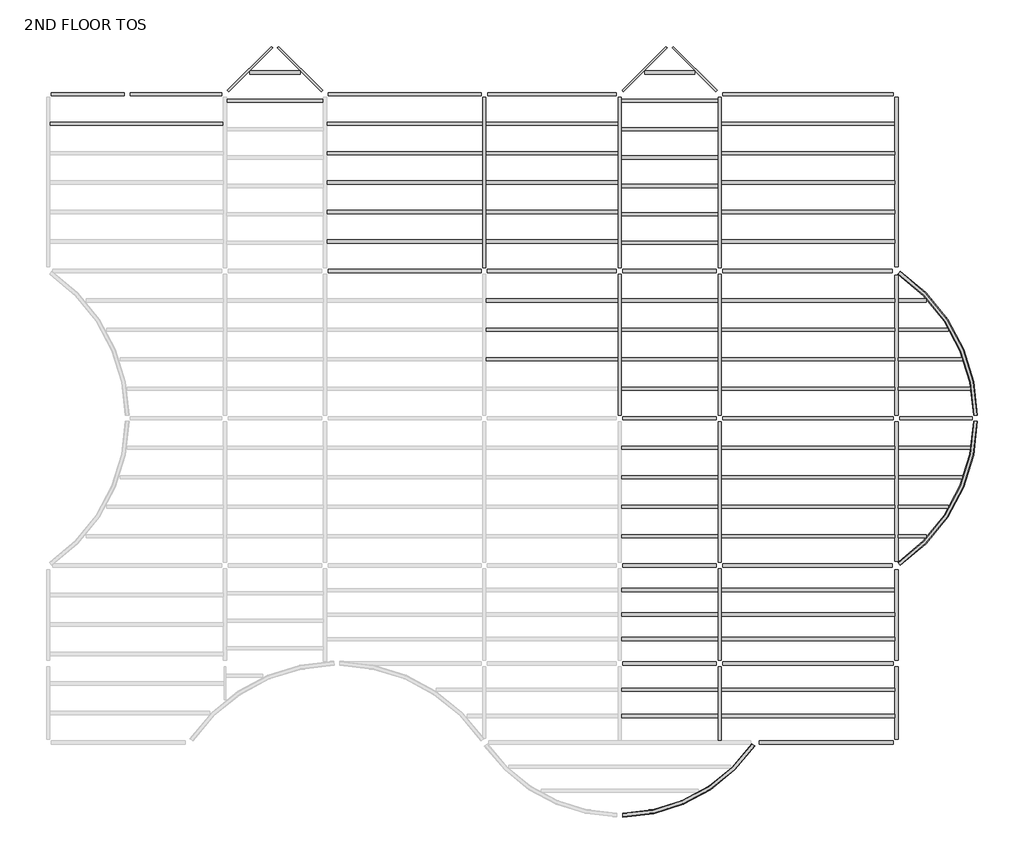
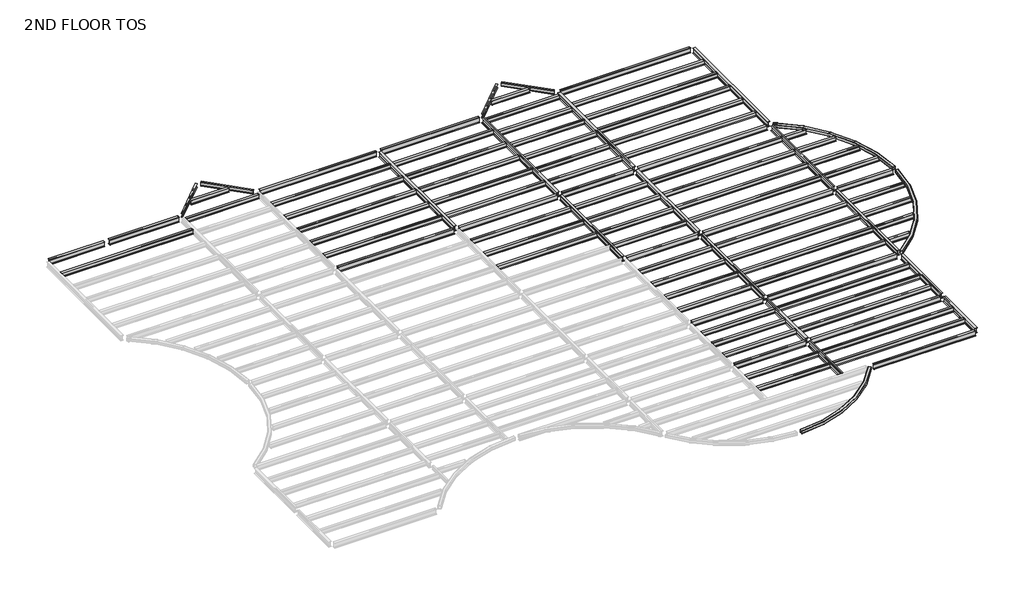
# One storey, part 2 of 2: 99 beams.
"""IFC4 building model written with IfcOpenShell, lengths in millimetres."""

from ifc_helpers import new_model, si_unit, origin, place, context, project, spatial, transform, mapped, element, save
from components import m_hss_square_hss203_2x203_2x9_5_28e91a4e, m_hss_square_hss203_2x203_2x9_5_f31329aa, m_hss_square_hss203_2x203_2x9_5_63507dff, ub_universal_beams_ub254x102x28_7812688d, ub_universal_beams_ub254x102x28_4a38c177, ub_universal_beams_ub305x165x40_c4d0385b, ub_universal_beams_ub305x165x40_19965e16, ub_universal_beams_ub305x165x40_d3abc31d, ub_universal_beams_ub305x165x40_0c73730f, ub_universal_beams_ub305x165x40_2a963f0c, ub_universal_beams_ub305x165x40_9ce7f2ee, ub_universal_beams_ub305x165x40_d184adfd, ub_universal_beams_ub305x165x40_bc7dc938, ub_universal_beams_ub305x165x40_b4233d25, ub_universal_beams_ub356x171x51_c708c058, ub_universal_beams_ub356x171x51_ef72dcdd, ub_universal_beams_ub356x171x51_10b3c54f, ub_universal_beams_ub356x171x51_4c9fd821, ub_universal_beams_ub356x171x51_d1a87c3c, ub_universal_beams_ub356x171x51_fa75724b, ub_universal_beams_ub356x171x51_68db896e, ub_universal_beams_ub356x171x51_c634c4a6, ub_universal_beams_ub356x171x51_995f1560, ub_universal_beams_ub356x171x51_dfc36663, ub_universal_beams_ub356x171x51_11d6b780, ub_universal_beams_ub356x171x51_76b2d20b, ub_universal_beams_ub356x171x51_145ecd4b, ub_universal_beams_ub356x171x51_c7dff8d2, ub_universal_beams_ub356x171x51_8a345439, ub_universal_beams_ub356x171x51_6da510e9, ub_universal_beams_ub356x171x51_e97f8d2e, ub_universal_beams_ub356x171x51_a38b99de, ub_universal_beams_ub356x171x51_d8f4cdde, ub_universal_beams_ub356x171x51_475301e6, ub_universal_beams_ub356x171x51_c03c70fb, ub_universal_beams_ub356x171x51_741bae58

model = new_model("IFC4")

# Units and contexts
model_context = context("Model", 3, world=origin())
ifc_project = project(units=[si_unit("LENGTHUNIT", "METRE", prefix="MILLI")], contexts=[model_context])

# Site, building, storey
site = spatial("IfcSite", under=ifc_project)
building = spatial("IfcBuilding", under=site)
storey = spatial("IfcBuildingStorey", under=building, Name="2ND FLOOR TOS", Elevation=8991.6)

# Beams
placement = place(None, origin())
m_hss_square_hss203_2x203_2x9_5_shape = m_hss_square_hss203_2x203_2x9_5_28e91a4e(model_context)
element("IfcBeam", 1, ObjectType="M_HSS Square : HSS203.2X203.2X9.5", at=placement, inside=storey, context=model_context, shape_type="MappedRepresentation", body=[
    mapped(m_hss_square_hss203_2x203_2x9_5_shape, transform((44027.575, 24539.575, 8890.1), x_axis=(0.8332810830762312, -0.5528495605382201, 0.0), y_axis=(0.5528495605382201, 0.8332810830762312, 0.0), z_axis=(0.0, 0.0, 1.0))),
])
m_hss_square_hss203_2x203_2x9_5_2_shape = m_hss_square_hss203_2x203_2x9_5_f31329aa(model_context)
element("IfcBeam", 2, ObjectType="M_HSS Square : HSS203.2X203.2X9.5", at=placement, inside=storey, context=model_context, shape_type="MappedRepresentation", body=[
    mapped(m_hss_square_hss203_2x203_2x9_5_2_shape, transform((44027.575, 9299.575, 8890.1), x_axis=(0.8332810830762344, 0.5528495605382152, 0.0), y_axis=(-0.5528495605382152, 0.8332810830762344, 0.0), z_axis=(0.0, 0.0, 1.0))),
])
m_hss_square_hss203_2x203_2x9_5_3_shape = m_hss_square_hss203_2x203_2x9_5_63507dff(model_context)
element("IfcBeam", 3, ObjectType="M_HSS Square : HSS203.2X203.2X9.5", at=placement, inside=storey, context=model_context, shape_type="MappedRepresentation", body=[
    mapped(m_hss_square_hss203_2x203_2x9_5_3_shape, transform((36716.575, 155.575, 8890.1), x_axis=(-0.5530174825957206, -0.8331696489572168, 0.0), y_axis=(0.8331696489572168, -0.5530174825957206, 0.0), z_axis=(0.0, 0.0, 1.0))),
])
ub_universal_beams_ub254x102x28_shape = ub_universal_beams_ub254x102x28_7812688d(model_context)
element("IfcBeam", 4, ObjectType="UB-Universal Beams : UB254x102x28", at=placement, inside=storey, context=model_context, shape_type="MappedRepresentation", body=[
    mapped(ub_universal_beams_ub254x102x28_shape, transform((10592.575, 34976.575, 8861.4), x_axis=(0.7071067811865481, 0.7071067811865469, 0.0), y_axis=(-0.7071067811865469, 0.7071067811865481, 0.0), z_axis=(0.0, 0.0, 1.0))),
])
element("IfcBeam", 5, ObjectType="UB-Universal Beams : UB254x102x28", at=placement, inside=storey, context=model_context, shape_type="MappedRepresentation", body=[
    mapped(ub_universal_beams_ub254x102x28_shape, transform((31004.575, 34976.575, 8861.4), x_axis=(0.7071067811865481, 0.7071067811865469, 0.0), y_axis=(-0.7071067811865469, 0.7071067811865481, 0.0), z_axis=(0.0, 0.0, 1.0))),
])
ub_universal_beams_ub254x102x28_2_shape = ub_universal_beams_ub254x102x28_4a38c177(model_context)
element("IfcBeam", 6, ObjectType="UB-Universal Beams : UB254x102x28", at=placement, inside=storey, context=model_context, shape_type="MappedRepresentation", body=[
    mapped(ub_universal_beams_ub254x102x28_2_shape, transform((13178.575, 34976.575, 8861.4), x_axis=(0.707106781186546, -0.707106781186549, 0.0), y_axis=(0.707106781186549, 0.707106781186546, 0.0), z_axis=(0.0, 0.0, 1.0))),
])
element("IfcBeam", 7, ObjectType="UB-Universal Beams : UB254x102x28", at=placement, inside=storey, context=model_context, shape_type="MappedRepresentation", body=[
    mapped(ub_universal_beams_ub254x102x28_2_shape, transform((33590.575, 34976.575, 8861.4), x_axis=(0.7071067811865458, -0.7071067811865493, 0.0), y_axis=(0.7071067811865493, 0.7071067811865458, 0.0), z_axis=(0.0, 0.0, 1.0))),
])
ub_universal_beams_ub305x165x40_shape = ub_universal_beams_ub305x165x40_c4d0385b(model_context)
element("IfcBeam", 8, ObjectType="UB-Universal Beams : UB305x165x40", at=placement, inside=storey, context=model_context, shape_type="MappedRepresentation", body=[
    mapped(ub_universal_beams_ub305x165x40_shape, transform((4727.575, 32159.575, 8839.9), x_axis=(1.0, 0.0, 0.0), y_axis=(0.0, 1.0, 0.0), z_axis=(0.0, 0.0, 1.0))),
])
element("IfcBeam", 9, ObjectType="UB-Universal Beams : UB305x165x40", at=placement, inside=storey, context=model_context, shape_type="MappedRepresentation", body=[
    mapped(ub_universal_beams_ub305x165x40_shape, transform((39455.575, 32159.575, 8839.9), x_axis=(1.0, 0.0, 0.0), y_axis=(0.0, 1.0, 0.0), z_axis=(0.0, 0.0, 1.0))),
])
element("IfcBeam", 10, ObjectType="UB-Universal Beams : UB305x165x40", at=placement, inside=storey, context=model_context, shape_type="MappedRepresentation", body=[
    mapped(ub_universal_beams_ub305x165x40_shape, transform((39455.575, 30635.575, 8839.9), x_axis=(1.0, 0.0, 0.0), y_axis=(0.0, 1.0, 0.0), z_axis=(0.0, 0.0, 1.0))),
])
element("IfcBeam", 11, ObjectType="UB-Universal Beams : UB305x165x40", at=placement, inside=storey, context=model_context, shape_type="MappedRepresentation", body=[
    mapped(ub_universal_beams_ub305x165x40_shape, transform((39455.575, 29111.575, 8839.9), x_axis=(1.0, 0.0, 0.0), y_axis=(0.0, 1.0, 0.0), z_axis=(0.0, 0.0, 1.0))),
])
element("IfcBeam", 12, ObjectType="UB-Universal Beams : UB305x165x40", at=placement, inside=storey, context=model_context, shape_type="MappedRepresentation", body=[
    mapped(ub_universal_beams_ub305x165x40_shape, transform((39455.575, 27587.575, 8839.9), x_axis=(1.0, 0.0, 0.0), y_axis=(0.0, 1.0, 0.0), z_axis=(0.0, 0.0, 1.0))),
])
element("IfcBeam", 13, ObjectType="UB-Universal Beams : UB305x165x40", at=placement, inside=storey, context=model_context, shape_type="MappedRepresentation", body=[
    mapped(ub_universal_beams_ub305x165x40_shape, transform((39455.575, 26063.575, 8839.9), x_axis=(1.0, 0.0, 0.0), y_axis=(0.0, 1.0, 0.0), z_axis=(0.0, 0.0, 1.0))),
])
element("IfcBeam", 14, ObjectType="UB-Universal Beams : UB305x165x40", at=placement, inside=storey, context=model_context, shape_type="MappedRepresentation", body=[
    mapped(ub_universal_beams_ub305x165x40_shape, transform((39455.575, 23015.575, 8839.9), x_axis=(1.0, 0.0, 0.0), y_axis=(0.0, 1.0, 0.0), z_axis=(0.0, 0.0, 1.0))),
])
element("IfcBeam", 15, ObjectType="UB-Universal Beams : UB305x165x40", at=placement, inside=storey, context=model_context, shape_type="MappedRepresentation", body=[
    mapped(ub_universal_beams_ub305x165x40_shape, transform((39455.575, 21491.575, 8839.9), x_axis=(1.0, 0.0, 0.0), y_axis=(0.0, 1.0, 0.0), z_axis=(0.0, 0.0, 1.0))),
])
element("IfcBeam", 16, ObjectType="UB-Universal Beams : UB305x165x40", at=placement, inside=storey, context=model_context, shape_type="MappedRepresentation", body=[
    mapped(ub_universal_beams_ub305x165x40_shape, transform((39455.575, 19967.575, 8839.9), x_axis=(1.0, 0.0, 0.0), y_axis=(0.0, 1.0, 0.0), z_axis=(0.0, 0.0, 1.0))),
])
element("IfcBeam", 17, ObjectType="UB-Universal Beams : UB305x165x40", at=placement, inside=storey, context=model_context, shape_type="MappedRepresentation", body=[
    mapped(ub_universal_beams_ub305x165x40_shape, transform((39455.575, 18443.575, 8839.9), x_axis=(1.0, 0.0, 0.0), y_axis=(0.0, 1.0, 0.0), z_axis=(0.0, 0.0, 1.0))),
])
element("IfcBeam", 18, ObjectType="UB-Universal Beams : UB305x165x40", at=placement, inside=storey, context=model_context, shape_type="MappedRepresentation", body=[
    mapped(ub_universal_beams_ub305x165x40_shape, transform((39455.575, 15395.575, 8839.9), x_axis=(1.0, 0.0, 0.0), y_axis=(0.0, 1.0, 0.0), z_axis=(0.0, 0.0, 1.0))),
])
element("IfcBeam", 19, ObjectType="UB-Universal Beams : UB305x165x40", at=placement, inside=storey, context=model_context, shape_type="MappedRepresentation", body=[
    mapped(ub_universal_beams_ub305x165x40_shape, transform((39455.575, 13871.575, 8839.9), x_axis=(1.0, 0.0, 0.0), y_axis=(0.0, 1.0, 0.0), z_axis=(0.0, 0.0, 1.0))),
])
element("IfcBeam", 20, ObjectType="UB-Universal Beams : UB305x165x40", at=placement, inside=storey, context=model_context, shape_type="MappedRepresentation", body=[
    mapped(ub_universal_beams_ub305x165x40_shape, transform((39455.575, 12347.575, 8839.9), x_axis=(1.0, 0.0, 0.0), y_axis=(0.0, 1.0, 0.0), z_axis=(0.0, 0.0, 1.0))),
])
element("IfcBeam", 21, ObjectType="UB-Universal Beams : UB305x165x40", at=placement, inside=storey, context=model_context, shape_type="MappedRepresentation", body=[
    mapped(ub_universal_beams_ub305x165x40_shape, transform((39455.575, 10823.575, 8839.9), x_axis=(1.0, 0.0, 0.0), y_axis=(0.0, 1.0, 0.0), z_axis=(0.0, 0.0, 1.0))),
])
element("IfcBeam", 22, ObjectType="UB-Universal Beams : UB305x165x40", at=placement, inside=storey, context=model_context, shape_type="MappedRepresentation", body=[
    mapped(ub_universal_beams_ub305x165x40_shape, transform((39455.575, 5508.325, 8839.9), x_axis=(-1.0, 0.0, 0.0), y_axis=(0.0, -1.0, 0.0), z_axis=(0.0, 0.0, 1.0))),
])
element("IfcBeam", 23, ObjectType="UB-Universal Beams : UB305x165x40", at=placement, inside=storey, context=model_context, shape_type="MappedRepresentation", body=[
    mapped(ub_universal_beams_ub305x165x40_shape, transform((39455.575, 6772.075, 8839.9), x_axis=(-1.0, 0.0, 0.0), y_axis=(0.0, -1.0, 0.0), z_axis=(0.0, 0.0, 1.0))),
])
element("IfcBeam", 24, ObjectType="UB-Universal Beams : UB305x165x40", at=placement, inside=storey, context=model_context, shape_type="MappedRepresentation", body=[
    mapped(ub_universal_beams_ub305x165x40_shape, transform((39455.575, 8035.825, 8839.9), x_axis=(-1.0, 0.0, 0.0), y_axis=(0.0, -1.0, 0.0), z_axis=(0.0, 0.0, 1.0))),
])
element("IfcBeam", 25, ObjectType="UB-Universal Beams : UB305x165x40", at=placement, inside=storey, context=model_context, shape_type="MappedRepresentation", body=[
    mapped(ub_universal_beams_ub305x165x40_shape, transform((39455.575, 1518.575, 8839.9), x_axis=(-1.0, 0.0, 0.0), y_axis=(0.0, -1.0, 0.0), z_axis=(0.0, 0.0, 1.0))),
])
element("IfcBeam", 26, ObjectType="UB-Universal Beams : UB305x165x40", at=placement, inside=storey, context=model_context, shape_type="MappedRepresentation", body=[
    mapped(ub_universal_beams_ub305x165x40_shape, transform((39455.575, 2881.575, 8839.9), x_axis=(-1.0, 0.0, 0.0), y_axis=(0.0, -1.0, 0.0), z_axis=(0.0, 0.0, 1.0))),
])
ub_universal_beams_ub305x165x40_2_shape = ub_universal_beams_ub305x165x40_19965e16(model_context)
element("IfcBeam", 27, ObjectType="UB-Universal Beams : UB305x165x40", at=placement, inside=storey, context=model_context, shape_type="MappedRepresentation", body=[
    mapped(ub_universal_beams_ub305x165x40_2_shape, transform((11885.575, 34803.325, 8839.9), x_axis=(1.0, 0.0, 0.0), y_axis=(0.0, 1.0, 0.0), z_axis=(0.0, 0.0, 1.0))),
])
element("IfcBeam", 28, ObjectType="UB-Universal Beams : UB305x165x40", at=placement, inside=storey, context=model_context, shape_type="MappedRepresentation", body=[
    mapped(ub_universal_beams_ub305x165x40_2_shape, transform((32297.575, 34803.325, 8839.9), x_axis=(1.0, 0.0, 0.0), y_axis=(0.0, 1.0, 0.0), z_axis=(0.0, 0.0, 1.0))),
])
ub_universal_beams_ub305x165x40_3_shape = ub_universal_beams_ub305x165x40_d3abc31d(model_context)
element("IfcBeam", 29, ObjectType="UB-Universal Beams : UB305x165x40", at=placement, inside=storey, context=model_context, shape_type="MappedRepresentation", body=[
    mapped(ub_universal_beams_ub305x165x40_3_shape, transform((11885.575, 33337.075, 8839.9), x_axis=(1.0, 0.0, 0.0), y_axis=(0.0, 1.0, 0.0), z_axis=(0.0, 0.0, 1.0))),
])
element("IfcBeam", 30, ObjectType="UB-Universal Beams : UB305x165x40", at=placement, inside=storey, context=model_context, shape_type="MappedRepresentation", body=[
    mapped(ub_universal_beams_ub305x165x40_3_shape, transform((32297.575, 33337.075, 8839.9), x_axis=(1.0, 0.0, 0.0), y_axis=(0.0, 1.0, 0.0), z_axis=(0.0, 0.0, 1.0))),
])
element("IfcBeam", 31, ObjectType="UB-Universal Beams : UB305x165x40", at=placement, inside=storey, context=model_context, shape_type="MappedRepresentation", body=[
    mapped(ub_universal_beams_ub305x165x40_3_shape, transform((32297.575, 31870.825, 8839.9), x_axis=(1.0, 0.0, 0.0), y_axis=(0.0, 1.0, 0.0), z_axis=(0.0, 0.0, 1.0))),
])
element("IfcBeam", 32, ObjectType="UB-Universal Beams : UB305x165x40", at=placement, inside=storey, context=model_context, shape_type="MappedRepresentation", body=[
    mapped(ub_universal_beams_ub305x165x40_3_shape, transform((32297.575, 30404.575, 8839.9), x_axis=(1.0, 0.0, 0.0), y_axis=(0.0, 1.0, 0.0), z_axis=(0.0, 0.0, 1.0))),
])
element("IfcBeam", 33, ObjectType="UB-Universal Beams : UB305x165x40", at=placement, inside=storey, context=model_context, shape_type="MappedRepresentation", body=[
    mapped(ub_universal_beams_ub305x165x40_3_shape, transform((32297.575, 28938.325, 8839.9), x_axis=(1.0, 0.0, 0.0), y_axis=(0.0, 1.0, 0.0), z_axis=(0.0, 0.0, 1.0))),
])
element("IfcBeam", 34, ObjectType="UB-Universal Beams : UB305x165x40", at=placement, inside=storey, context=model_context, shape_type="MappedRepresentation", body=[
    mapped(ub_universal_beams_ub305x165x40_3_shape, transform((32297.575, 27472.075, 8839.9), x_axis=(1.0, 0.0, 0.0), y_axis=(0.0, 1.0, 0.0), z_axis=(0.0, 0.0, 1.0))),
])
element("IfcBeam", 35, ObjectType="UB-Universal Beams : UB305x165x40", at=placement, inside=storey, context=model_context, shape_type="MappedRepresentation", body=[
    mapped(ub_universal_beams_ub305x165x40_3_shape, transform((32297.575, 26005.825, 8839.9), x_axis=(1.0, 0.0, 0.0), y_axis=(0.0, 1.0, 0.0), z_axis=(0.0, 0.0, 1.0))),
])
element("IfcBeam", 36, ObjectType="UB-Universal Beams : UB305x165x40", at=placement, inside=storey, context=model_context, shape_type="MappedRepresentation", body=[
    mapped(ub_universal_beams_ub305x165x40_3_shape, transform((32297.575, 1518.575, 8839.9), x_axis=(-1.0, 0.0, 0.0), y_axis=(0.0, -1.0, 0.0), z_axis=(0.0, 0.0, 1.0))),
])
element("IfcBeam", 37, ObjectType="UB-Universal Beams : UB305x165x40", at=placement, inside=storey, context=model_context, shape_type="MappedRepresentation", body=[
    mapped(ub_universal_beams_ub305x165x40_3_shape, transform((32297.575, 2881.575, 8839.9), x_axis=(-1.0, 0.0, 0.0), y_axis=(0.0, -1.0, 0.0), z_axis=(0.0, 0.0, 1.0))),
])
element("IfcBeam", 38, ObjectType="UB-Universal Beams : UB305x165x40", at=placement, inside=storey, context=model_context, shape_type="MappedRepresentation", body=[
    mapped(ub_universal_beams_ub305x165x40_3_shape, transform((32297.575, 5508.325, 8839.9), x_axis=(-1.0, 0.0, 0.0), y_axis=(0.0, -1.0, 0.0), z_axis=(0.0, 0.0, 1.0))),
])
element("IfcBeam", 39, ObjectType="UB-Universal Beams : UB305x165x40", at=placement, inside=storey, context=model_context, shape_type="MappedRepresentation", body=[
    mapped(ub_universal_beams_ub305x165x40_3_shape, transform((32297.575, 6772.075, 8839.9), x_axis=(-1.0, 0.0, 0.0), y_axis=(0.0, -1.0, 0.0), z_axis=(0.0, 0.0, 1.0))),
])
element("IfcBeam", 40, ObjectType="UB-Universal Beams : UB305x165x40", at=placement, inside=storey, context=model_context, shape_type="MappedRepresentation", body=[
    mapped(ub_universal_beams_ub305x165x40_3_shape, transform((32297.575, 8035.825, 8839.9), x_axis=(-1.0, 0.0, 0.0), y_axis=(0.0, -1.0, 0.0), z_axis=(0.0, 0.0, 1.0))),
])
element("IfcBeam", 41, ObjectType="UB-Universal Beams : UB305x165x40", at=placement, inside=storey, context=model_context, shape_type="MappedRepresentation", body=[
    mapped(ub_universal_beams_ub305x165x40_3_shape, transform((32297.575, 15395.575, 8839.9), x_axis=(1.0, 0.0, 0.0), y_axis=(0.0, 1.0, 0.0), z_axis=(0.0, 0.0, 1.0))),
])
element("IfcBeam", 42, ObjectType="UB-Universal Beams : UB305x165x40", at=placement, inside=storey, context=model_context, shape_type="MappedRepresentation", body=[
    mapped(ub_universal_beams_ub305x165x40_3_shape, transform((32297.575, 13871.575, 8839.9), x_axis=(1.0, 0.0, 0.0), y_axis=(0.0, 1.0, 0.0), z_axis=(0.0, 0.0, 1.0))),
])
element("IfcBeam", 43, ObjectType="UB-Universal Beams : UB305x165x40", at=placement, inside=storey, context=model_context, shape_type="MappedRepresentation", body=[
    mapped(ub_universal_beams_ub305x165x40_3_shape, transform((32297.575, 12347.575, 8839.9), x_axis=(1.0, 0.0, 0.0), y_axis=(0.0, 1.0, 0.0), z_axis=(0.0, 0.0, 1.0))),
])
element("IfcBeam", 44, ObjectType="UB-Universal Beams : UB305x165x40", at=placement, inside=storey, context=model_context, shape_type="MappedRepresentation", body=[
    mapped(ub_universal_beams_ub305x165x40_3_shape, transform((32297.575, 10823.575, 8839.9), x_axis=(1.0, 0.0, 0.0), y_axis=(0.0, 1.0, 0.0), z_axis=(0.0, 0.0, 1.0))),
])
element("IfcBeam", 45, ObjectType="UB-Universal Beams : UB305x165x40", at=placement, inside=storey, context=model_context, shape_type="MappedRepresentation", body=[
    mapped(ub_universal_beams_ub305x165x40_3_shape, transform((32297.575, 23015.575, 8839.9), x_axis=(1.0, 0.0, 0.0), y_axis=(0.0, 1.0, 0.0), z_axis=(0.0, 0.0, 1.0))),
])
element("IfcBeam", 46, ObjectType="UB-Universal Beams : UB305x165x40", at=placement, inside=storey, context=model_context, shape_type="MappedRepresentation", body=[
    mapped(ub_universal_beams_ub305x165x40_3_shape, transform((32297.575, 21491.575, 8839.9), x_axis=(1.0, 0.0, 0.0), y_axis=(0.0, 1.0, 0.0), z_axis=(0.0, 0.0, 1.0))),
])
element("IfcBeam", 47, ObjectType="UB-Universal Beams : UB305x165x40", at=placement, inside=storey, context=model_context, shape_type="MappedRepresentation", body=[
    mapped(ub_universal_beams_ub305x165x40_3_shape, transform((32297.575, 19967.575, 8839.9), x_axis=(1.0, 0.0, 0.0), y_axis=(0.0, 1.0, 0.0), z_axis=(0.0, 0.0, 1.0))),
])
element("IfcBeam", 48, ObjectType="UB-Universal Beams : UB305x165x40", at=placement, inside=storey, context=model_context, shape_type="MappedRepresentation", body=[
    mapped(ub_universal_beams_ub305x165x40_3_shape, transform((32297.575, 18443.575, 8839.9), x_axis=(1.0, 0.0, 0.0), y_axis=(0.0, 1.0, 0.0), z_axis=(0.0, 0.0, 1.0))),
])
ub_universal_beams_ub305x165x40_4_shape = ub_universal_beams_ub305x165x40_0c73730f(model_context)
element("IfcBeam", 49, ObjectType="UB-Universal Beams : UB305x165x40", at=placement, inside=storey, context=model_context, shape_type="MappedRepresentation", body=[
    mapped(ub_universal_beams_ub305x165x40_4_shape, transform((18591.075, 32159.575, 8839.9), x_axis=(1.0, 0.0, 0.0), y_axis=(0.0, 1.0, 0.0), z_axis=(0.0, 0.0, 1.0))),
])
element("IfcBeam", 50, ObjectType="UB-Universal Beams : UB305x165x40", at=placement, inside=storey, context=model_context, shape_type="MappedRepresentation", body=[
    mapped(ub_universal_beams_ub305x165x40_4_shape, transform((18591.075, 30635.575, 8839.9), x_axis=(1.0, 0.0, 0.0), y_axis=(0.0, 1.0, 0.0), z_axis=(0.0, 0.0, 1.0))),
])
element("IfcBeam", 51, ObjectType="UB-Universal Beams : UB305x165x40", at=placement, inside=storey, context=model_context, shape_type="MappedRepresentation", body=[
    mapped(ub_universal_beams_ub305x165x40_4_shape, transform((18591.075, 29111.575, 8839.9), x_axis=(1.0, 0.0, 0.0), y_axis=(0.0, 1.0, 0.0), z_axis=(0.0, 0.0, 1.0))),
])
element("IfcBeam", 52, ObjectType="UB-Universal Beams : UB305x165x40", at=placement, inside=storey, context=model_context, shape_type="MappedRepresentation", body=[
    mapped(ub_universal_beams_ub305x165x40_4_shape, transform((18591.075, 27587.575, 8839.9), x_axis=(1.0, 0.0, 0.0), y_axis=(0.0, 1.0, 0.0), z_axis=(0.0, 0.0, 1.0))),
])
element("IfcBeam", 53, ObjectType="UB-Universal Beams : UB305x165x40", at=placement, inside=storey, context=model_context, shape_type="MappedRepresentation", body=[
    mapped(ub_universal_beams_ub305x165x40_4_shape, transform((18591.075, 26063.575, 8839.9), x_axis=(1.0, 0.0, 0.0), y_axis=(0.0, 1.0, 0.0), z_axis=(0.0, 0.0, 1.0))),
])
ub_universal_beams_ub305x165x40_5_shape = ub_universal_beams_ub305x165x40_2a963f0c(model_context)
element("IfcBeam", 54, ObjectType="UB-Universal Beams : UB305x165x40", at=placement, inside=storey, context=model_context, shape_type="MappedRepresentation", body=[
    mapped(ub_universal_beams_ub305x165x40_5_shape, transform((26211.075, 32159.575, 8839.9), x_axis=(1.0, 0.0, 0.0), y_axis=(0.0, 1.0, 0.0), z_axis=(0.0, 0.0, 1.0))),
])
element("IfcBeam", 55, ObjectType="UB-Universal Beams : UB305x165x40", at=placement, inside=storey, context=model_context, shape_type="MappedRepresentation", body=[
    mapped(ub_universal_beams_ub305x165x40_5_shape, transform((26211.075, 30635.575, 8839.9), x_axis=(1.0, 0.0, 0.0), y_axis=(0.0, 1.0, 0.0), z_axis=(0.0, 0.0, 1.0))),
])
element("IfcBeam", 56, ObjectType="UB-Universal Beams : UB305x165x40", at=placement, inside=storey, context=model_context, shape_type="MappedRepresentation", body=[
    mapped(ub_universal_beams_ub305x165x40_5_shape, transform((26211.075, 29111.575, 8839.9), x_axis=(1.0, 0.0, 0.0), y_axis=(0.0, 1.0, 0.0), z_axis=(0.0, 0.0, 1.0))),
])
element("IfcBeam", 57, ObjectType="UB-Universal Beams : UB305x165x40", at=placement, inside=storey, context=model_context, shape_type="MappedRepresentation", body=[
    mapped(ub_universal_beams_ub305x165x40_5_shape, transform((26211.075, 27587.575, 8839.9), x_axis=(1.0, 0.0, 0.0), y_axis=(0.0, 1.0, 0.0), z_axis=(0.0, 0.0, 1.0))),
])
element("IfcBeam", 58, ObjectType="UB-Universal Beams : UB305x165x40", at=placement, inside=storey, context=model_context, shape_type="MappedRepresentation", body=[
    mapped(ub_universal_beams_ub305x165x40_5_shape, transform((26211.075, 26063.575, 8839.9), x_axis=(1.0, 0.0, 0.0), y_axis=(0.0, 1.0, 0.0), z_axis=(0.0, 0.0, 1.0))),
])
element("IfcBeam", 59, ObjectType="UB-Universal Beams : UB305x165x40", at=placement, inside=storey, context=model_context, shape_type="MappedRepresentation", body=[
    mapped(ub_universal_beams_ub305x165x40_5_shape, transform((26211.075, 23015.575, 8839.9), x_axis=(1.0, 0.0, 0.0), y_axis=(0.0, 1.0, 0.0), z_axis=(0.0, 0.0, 1.0))),
])
element("IfcBeam", 60, ObjectType="UB-Universal Beams : UB305x165x40", at=placement, inside=storey, context=model_context, shape_type="MappedRepresentation", body=[
    mapped(ub_universal_beams_ub305x165x40_5_shape, transform((26211.075, 21491.575, 8839.9), x_axis=(1.0, 0.0, 0.0), y_axis=(0.0, 1.0, 0.0), z_axis=(0.0, 0.0, 1.0))),
])
element("IfcBeam", 61, ObjectType="UB-Universal Beams : UB305x165x40", at=placement, inside=storey, context=model_context, shape_type="MappedRepresentation", body=[
    mapped(ub_universal_beams_ub305x165x40_5_shape, transform((26211.075, 19967.575, 8839.9), x_axis=(1.0, 0.0, 0.0), y_axis=(0.0, 1.0, 0.0), z_axis=(0.0, 0.0, 1.0))),
])
ub_universal_beams_ub305x165x40_6_shape = ub_universal_beams_ub305x165x40_9ce7f2ee(model_context)
element("IfcBeam", 62, ObjectType="UB-Universal Beams : UB305x165x40", at=placement, inside=storey, context=model_context, shape_type="MappedRepresentation", body=[
    mapped(ub_universal_beams_ub305x165x40_6_shape, transform((44907.9405309, 23015.575, 8839.9), x_axis=(1.0, 0.0, 0.0), y_axis=(0.0, 1.0, 0.0), z_axis=(0.0, 0.0, 1.0))),
])
element("IfcBeam", 63, ObjectType="UB-Universal Beams : UB305x165x40", at=placement, inside=storey, context=model_context, shape_type="MappedRepresentation", body=[
    mapped(ub_universal_beams_ub305x165x40_6_shape, transform((44907.9405309, 10823.575, 8839.9), x_axis=(1.0, 0.0, 0.0), y_axis=(0.0, 1.0, 0.0), z_axis=(0.0, 0.0, 1.0))),
])
ub_universal_beams_ub305x165x40_7_shape = ub_universal_beams_ub305x165x40_d184adfd(model_context)
element("IfcBeam", 64, ObjectType="UB-Universal Beams : UB305x165x40", at=placement, inside=storey, context=model_context, shape_type="MappedRepresentation", body=[
    mapped(ub_universal_beams_ub305x165x40_7_shape, transform((45459.5874928, 21491.575, 8839.9), x_axis=(1.0, 0.0, 0.0), y_axis=(0.0, 1.0, 0.0), z_axis=(0.0, 0.0, 1.0))),
])
element("IfcBeam", 65, ObjectType="UB-Universal Beams : UB305x165x40", at=placement, inside=storey, context=model_context, shape_type="MappedRepresentation", body=[
    mapped(ub_universal_beams_ub305x165x40_7_shape, transform((45459.5874928, 12347.575, 8839.9), x_axis=(1.0, 0.0, 0.0), y_axis=(0.0, 1.0, 0.0), z_axis=(0.0, 0.0, 1.0))),
])
ub_universal_beams_ub305x165x40_8_shape = ub_universal_beams_ub305x165x40_bc7dc938(model_context)
element("IfcBeam", 66, ObjectType="UB-Universal Beams : UB305x165x40", at=placement, inside=storey, context=model_context, shape_type="MappedRepresentation", body=[
    mapped(ub_universal_beams_ub305x165x40_8_shape, transform((45810.6153272, 19967.575, 8839.9), x_axis=(1.0, 0.0, 0.0), y_axis=(0.0, 1.0, 0.0), z_axis=(0.0, 0.0, 1.0))),
])
element("IfcBeam", 67, ObjectType="UB-Universal Beams : UB305x165x40", at=placement, inside=storey, context=model_context, shape_type="MappedRepresentation", body=[
    mapped(ub_universal_beams_ub305x165x40_8_shape, transform((45810.6153272, 13871.575, 8839.9), x_axis=(1.0, 0.0, 0.0), y_axis=(0.0, 1.0, 0.0), z_axis=(0.0, 0.0, 1.0))),
])
ub_universal_beams_ub305x165x40_9_shape = ub_universal_beams_ub305x165x40_b4233d25(model_context)
element("IfcBeam", 68, ObjectType="UB-Universal Beams : UB305x165x40", at=placement, inside=storey, context=model_context, shape_type="MappedRepresentation", body=[
    mapped(ub_universal_beams_ub305x165x40_9_shape, transform((46008.1318611, 18443.575, 8839.9), x_axis=(1.0, 0.0, 0.0), y_axis=(0.0, 1.0, 0.0), z_axis=(0.0, 0.0, 1.0))),
])
element("IfcBeam", 69, ObjectType="UB-Universal Beams : UB305x165x40", at=placement, inside=storey, context=model_context, shape_type="MappedRepresentation", body=[
    mapped(ub_universal_beams_ub305x165x40_9_shape, transform((46008.1318611, 15395.575, 8839.9), x_axis=(1.0, 0.0, 0.0), y_axis=(0.0, 1.0, 0.0), z_axis=(0.0, 0.0, 1.0))),
])
ub_universal_beams_ub356x171x51_shape = ub_universal_beams_ub356x171x51_c708c058(model_context)
element("IfcBeam", 70, ObjectType="UB-Universal Beams : UB356x171x51", at=placement, inside=storey, context=model_context, shape_type="MappedRepresentation", body=[
    mapped(ub_universal_beams_ub356x171x51_shape, transform((2200.075, 33683.575, 8814.1), x_axis=(1.0, 0.0, 0.0), y_axis=(0.0, 1.0, 0.0), z_axis=(0.0, 0.0, 1.0))),
])
ub_universal_beams_ub356x171x51_2_shape = ub_universal_beams_ub356x171x51_ef72dcdd(model_context)
element("IfcBeam", 71, ObjectType="UB-Universal Beams : UB356x171x51", at=placement, inside=storey, context=model_context, shape_type="MappedRepresentation", body=[
    mapped(ub_universal_beams_ub356x171x51_2_shape, transform((6772.075, 33683.575, 8814.1), x_axis=(1.0, 0.0, 0.0), y_axis=(0.0, 1.0, 0.0), z_axis=(0.0, 0.0, 1.0))),
])
element("IfcBeam", 72, ObjectType="UB-Universal Beams : UB356x171x51", at=placement, inside=storey, context=model_context, shape_type="MappedRepresentation", body=[
    mapped(ub_universal_beams_ub356x171x51_2_shape, transform((34883.575, 6772.075, 8814.1), x_axis=(0.0, -1.0, 0.0), y_axis=(1.0, 0.0, 0.0), z_axis=(0.0, 0.0, 1.0))),
])
ub_universal_beams_ub356x171x51_3_shape = ub_universal_beams_ub356x171x51_10b3c54f(model_context)
element("IfcBeam", 73, ObjectType="UB-Universal Beams : UB356x171x51", at=placement, inside=storey, context=model_context, shape_type="MappedRepresentation", body=[
    mapped(ub_universal_beams_ub356x171x51_3_shape, transform((18591.075, 33683.575, 8814.1), x_axis=(1.0, 0.0, 0.0), y_axis=(0.0, 1.0, 0.0), z_axis=(0.0, 0.0, 1.0))),
])
ub_universal_beams_ub356x171x51_4_shape = ub_universal_beams_ub356x171x51_4c9fd821(model_context)
element("IfcBeam", 74, ObjectType="UB-Universal Beams : UB356x171x51", at=placement, inside=storey, context=model_context, shape_type="MappedRepresentation", body=[
    mapped(ub_universal_beams_ub356x171x51_4_shape, transform((26211.075, 33683.575, 8814.1), x_axis=(1.0, 0.0, 0.0), y_axis=(0.0, 1.0, 0.0), z_axis=(0.0, 0.0, 1.0))),
])
ub_universal_beams_ub356x171x51_5_shape = ub_universal_beams_ub356x171x51_d1a87c3c(model_context)
element("IfcBeam", 75, ObjectType="UB-Universal Beams : UB356x171x51", at=placement, inside=storey, context=model_context, shape_type="MappedRepresentation", body=[
    mapped(ub_universal_beams_ub356x171x51_5_shape, transform((39455.575, 33683.575, 8814.1), x_axis=(1.0, 0.0, 0.0), y_axis=(0.0, 1.0, 0.0), z_axis=(0.0, 0.0, 1.0))),
])
ub_universal_beams_ub356x171x51_6_shape = ub_universal_beams_ub356x171x51_fa75724b(model_context)
element("IfcBeam", 76, ObjectType="UB-Universal Beams : UB356x171x51", at=placement, inside=storey, context=model_context, shape_type="MappedRepresentation", body=[
    mapped(ub_universal_beams_ub356x171x51_6_shape, transform((44027.575, 29111.575, 8814.1), x_axis=(0.0, -1.0, 0.0), y_axis=(1.0, 0.0, 0.0), z_axis=(0.0, 0.0, 1.0))),
])
ub_universal_beams_ub356x171x51_7_shape = ub_universal_beams_ub356x171x51_68db896e(model_context)
element("IfcBeam", 77, ObjectType="UB-Universal Beams : UB356x171x51", at=placement, inside=storey, context=model_context, shape_type="MappedRepresentation", body=[
    mapped(ub_universal_beams_ub356x171x51_7_shape, transform((44027.575, 6772.075, 8814.1), x_axis=(0.0, -1.0, 0.0), y_axis=(1.0, 0.0, 0.0), z_axis=(0.0, 0.0, 1.0))),
])
ub_universal_beams_ub356x171x51_8_shape = ub_universal_beams_ub356x171x51_c634c4a6(model_context)
element("IfcBeam", 78, ObjectType="UB-Universal Beams : UB356x171x51", at=placement, inside=storey, context=model_context, shape_type="MappedRepresentation", body=[
    mapped(ub_universal_beams_ub356x171x51_8_shape, transform((44027.575, 2200.075, 8814.1), x_axis=(0.0, -1.0, 0.0), y_axis=(1.0, 0.0, 0.0), z_axis=(0.0, 0.0, 1.0))),
])
ub_universal_beams_ub356x171x51_9_shape = ub_universal_beams_ub356x171x51_995f1560(model_context)
element("IfcBeam", 79, ObjectType="UB-Universal Beams : UB356x171x51", at=placement, inside=storey, context=model_context, shape_type="MappedRepresentation", body=[
    mapped(ub_universal_beams_ub356x171x51_9_shape, transform((40372.075, 155.575, 8814.1), x_axis=(-1.0, 0.0, 0.0), y_axis=(0.0, -1.0, 0.0), z_axis=(0.0, 0.0, 1.0))),
])
ub_universal_beams_ub356x171x51_10_shape = ub_universal_beams_ub356x171x51_dfc36663(model_context)
element("IfcBeam", 80, ObjectType="UB-Universal Beams : UB356x171x51", at=placement, inside=storey, context=model_context, shape_type="MappedRepresentation", body=[
    mapped(ub_universal_beams_ub356x171x51_10_shape, transform((46072.075, 16919.575, 8814.1), x_axis=(1.0, 0.0, 0.0), y_axis=(0.0, 1.0, 0.0), z_axis=(0.0, 0.0, 1.0))),
])
ub_universal_beams_ub356x171x51_11_shape = ub_universal_beams_ub356x171x51_11d6b780(model_context)
element("IfcBeam", 81, ObjectType="UB-Universal Beams : UB356x171x51", at=placement, inside=storey, context=model_context, shape_type="MappedRepresentation", body=[
    mapped(ub_universal_beams_ub356x171x51_11_shape, transform((32297.575, 24539.575, 8814.1), x_axis=(1.0, 0.0, 0.0), y_axis=(0.0, 1.0, 0.0), z_axis=(0.0, 0.0, 1.0))),
])
element("IfcBeam", 82, ObjectType="UB-Universal Beams : UB356x171x51", at=placement, inside=storey, context=model_context, shape_type="MappedRepresentation", body=[
    mapped(ub_universal_beams_ub356x171x51_11_shape, transform((32297.575, 9299.575, 8814.1), x_axis=(-1.0, 0.0, 0.0), y_axis=(0.0, -1.0, 0.0), z_axis=(0.0, 0.0, 1.0))),
])
element("IfcBeam", 83, ObjectType="UB-Universal Beams : UB356x171x51", at=placement, inside=storey, context=model_context, shape_type="MappedRepresentation", body=[
    mapped(ub_universal_beams_ub356x171x51_11_shape, transform((32297.575, 16919.575, 8814.1), x_axis=(1.0, 0.0, 0.0), y_axis=(0.0, 1.0, 0.0), z_axis=(0.0, 0.0, 1.0))),
])
element("IfcBeam", 84, ObjectType="UB-Universal Beams : UB356x171x51", at=placement, inside=storey, context=model_context, shape_type="MappedRepresentation", body=[
    mapped(ub_universal_beams_ub356x171x51_11_shape, transform((32297.575, 4244.575, 8814.1), x_axis=(-1.0, 0.0, 0.0), y_axis=(0.0, -1.0, 0.0), z_axis=(0.0, 0.0, 1.0))),
])
ub_universal_beams_ub356x171x51_12_shape = ub_universal_beams_ub356x171x51_76b2d20b(model_context)
element("IfcBeam", 85, ObjectType="UB-Universal Beams : UB356x171x51", at=placement, inside=storey, context=model_context, shape_type="MappedRepresentation", body=[
    mapped(ub_universal_beams_ub356x171x51_12_shape, transform((18591.075, 24539.575, 8814.1), x_axis=(1.0, 0.0, 0.0), y_axis=(0.0, 1.0, 0.0), z_axis=(0.0, 0.0, 1.0))),
])
ub_universal_beams_ub356x171x51_13_shape = ub_universal_beams_ub356x171x51_145ecd4b(model_context)
element("IfcBeam", 86, ObjectType="UB-Universal Beams : UB356x171x51", at=placement, inside=storey, context=model_context, shape_type="MappedRepresentation", body=[
    mapped(ub_universal_beams_ub356x171x51_13_shape, transform((26211.075, 24539.575, 8814.1), x_axis=(1.0, 0.0, 0.0), y_axis=(0.0, 1.0, 0.0), z_axis=(0.0, 0.0, 1.0))),
])
ub_universal_beams_ub356x171x51_14_shape = ub_universal_beams_ub356x171x51_c7dff8d2(model_context)
element("IfcBeam", 87, ObjectType="UB-Universal Beams : UB356x171x51", at=placement, inside=storey, context=model_context, shape_type="MappedRepresentation", body=[
    mapped(ub_universal_beams_ub356x171x51_14_shape, transform((39455.575, 24539.575, 8814.1), x_axis=(1.0, 0.0, 0.0), y_axis=(0.0, 1.0, 0.0), z_axis=(0.0, 0.0, 1.0))),
])
ub_universal_beams_ub356x171x51_15_shape = ub_universal_beams_ub356x171x51_8a345439(model_context)
element("IfcBeam", 88, ObjectType="UB-Universal Beams : UB356x171x51", at=placement, inside=storey, context=model_context, shape_type="MappedRepresentation", body=[
    mapped(ub_universal_beams_ub356x171x51_15_shape, transform((44027.575, 20729.575, 8814.1), x_axis=(0.0, -1.0, 0.0), y_axis=(1.0, 0.0, 0.0), z_axis=(0.0, 0.0, 1.0))),
])
ub_universal_beams_ub356x171x51_16_shape = ub_universal_beams_ub356x171x51_6da510e9(model_context)
element("IfcBeam", 89, ObjectType="UB-Universal Beams : UB356x171x51", at=placement, inside=storey, context=model_context, shape_type="MappedRepresentation", body=[
    mapped(ub_universal_beams_ub356x171x51_16_shape, transform((44027.575, 13109.575, 8814.1), x_axis=(0.0, -1.0, 0.0), y_axis=(1.0, 0.0, 0.0), z_axis=(0.0, 0.0, 1.0))),
])
ub_universal_beams_ub356x171x51_17_shape = ub_universal_beams_ub356x171x51_e97f8d2e(model_context)
element("IfcBeam", 90, ObjectType="UB-Universal Beams : UB356x171x51", at=placement, inside=storey, context=model_context, shape_type="MappedRepresentation", body=[
    mapped(ub_universal_beams_ub356x171x51_17_shape, transform((39455.575, 9299.575, 8814.1), x_axis=(-1.0, 0.0, 0.0), y_axis=(0.0, -1.0, 0.0), z_axis=(0.0, 0.0, 1.0))),
])
ub_universal_beams_ub356x171x51_18_shape = ub_universal_beams_ub356x171x51_a38b99de(model_context)
element("IfcBeam", 91, ObjectType="UB-Universal Beams : UB356x171x51", at=placement, inside=storey, context=model_context, shape_type="MappedRepresentation", body=[
    mapped(ub_universal_beams_ub356x171x51_18_shape, transform((34883.575, 20729.575, 8814.1), x_axis=(0.0, -1.0, 0.0), y_axis=(1.0, 0.0, 0.0), z_axis=(0.0, 0.0, 1.0))),
])
element("IfcBeam", 92, ObjectType="UB-Universal Beams : UB356x171x51", at=placement, inside=storey, context=model_context, shape_type="MappedRepresentation", body=[
    mapped(ub_universal_beams_ub356x171x51_18_shape, transform((34883.575, 13109.575, 8814.1), x_axis=(0.0, -1.0, 0.0), y_axis=(1.0, 0.0, 0.0), z_axis=(0.0, 0.0, 1.0))),
])
element("IfcBeam", 93, ObjectType="UB-Universal Beams : UB356x171x51", at=placement, inside=storey, context=model_context, shape_type="MappedRepresentation", body=[
    mapped(ub_universal_beams_ub356x171x51_18_shape, transform((29711.575, 20729.575, 8814.1), x_axis=(0.0, 1.0, 0.0), y_axis=(-1.0, 0.0, 0.0), z_axis=(0.0, 0.0, 1.0))),
])
ub_universal_beams_ub356x171x51_19_shape = ub_universal_beams_ub356x171x51_d8f4cdde(model_context)
element("IfcBeam", 94, ObjectType="UB-Universal Beams : UB356x171x51", at=placement, inside=storey, context=model_context, shape_type="MappedRepresentation", body=[
    mapped(ub_universal_beams_ub356x171x51_19_shape, transform((29711.575, 29111.575, 8814.1), x_axis=(0.0, 1.0, 0.0), y_axis=(-1.0, 0.0, 0.0), z_axis=(0.0, 0.0, 1.0))),
])
ub_universal_beams_ub356x171x51_20_shape = ub_universal_beams_ub356x171x51_475301e6(model_context)
element("IfcBeam", 95, ObjectType="UB-Universal Beams : UB356x171x51", at=placement, inside=storey, context=model_context, shape_type="MappedRepresentation", body=[
    mapped(ub_universal_beams_ub356x171x51_20_shape, transform((39455.575, 16919.575, 8814.1), x_axis=(1.0, 0.0, 0.0), y_axis=(0.0, 1.0, 0.0), z_axis=(0.0, 0.0, 1.0))),
])
element("IfcBeam", 96, ObjectType="UB-Universal Beams : UB356x171x51", at=placement, inside=storey, context=model_context, shape_type="MappedRepresentation", body=[
    mapped(ub_universal_beams_ub356x171x51_20_shape, transform((39455.575, 4244.575, 8814.1), x_axis=(-1.0, 0.0, 0.0), y_axis=(0.0, -1.0, 0.0), z_axis=(0.0, 0.0, 1.0))),
])
ub_universal_beams_ub356x171x51_21_shape = ub_universal_beams_ub356x171x51_c03c70fb(model_context)
element("IfcBeam", 97, ObjectType="UB-Universal Beams : UB356x171x51", at=placement, inside=storey, context=model_context, shape_type="MappedRepresentation", body=[
    mapped(ub_universal_beams_ub356x171x51_21_shape, transform((34883.575, 29111.575, 8814.1), x_axis=(0.0, -1.0, 0.0), y_axis=(1.0, 0.0, 0.0), z_axis=(0.0, 0.0, 1.0))),
])
element("IfcBeam", 98, ObjectType="UB-Universal Beams : UB356x171x51", at=placement, inside=storey, context=model_context, shape_type="MappedRepresentation", body=[
    mapped(ub_universal_beams_ub356x171x51_21_shape, transform((22710.575, 29111.575, 8814.1), x_axis=(0.0, -1.0, 0.0), y_axis=(1.0, 0.0, 0.0), z_axis=(0.0, 0.0, 1.0))),
])
ub_universal_beams_ub356x171x51_22_shape = ub_universal_beams_ub356x171x51_741bae58(model_context)
element("IfcBeam", 99, ObjectType="UB-Universal Beams : UB356x171x51", at=placement, inside=storey, context=model_context, shape_type="MappedRepresentation", body=[
    mapped(ub_universal_beams_ub356x171x51_22_shape, transform((34883.575, 2200.075, 8814.1), x_axis=(0.0, -1.0, 0.0), y_axis=(1.0, 0.0, 0.0), z_axis=(0.0, 0.0, 1.0))),
])

save(model, "model.ifc")
